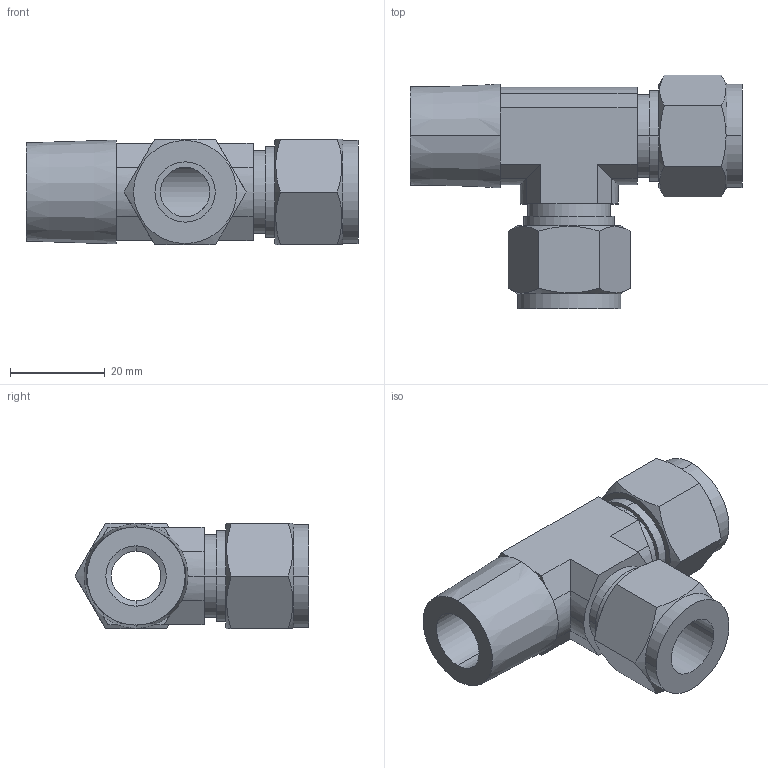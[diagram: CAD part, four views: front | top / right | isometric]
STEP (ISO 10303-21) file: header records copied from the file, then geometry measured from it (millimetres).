
FILE_DESCRIPTION (( 'STEP AP203' ), '1' );
FILE_NAME ('DTK 08-08 SS.STEP', '2009-09-08T10:03:24', ( ' ' ), ( '' ), 'SwSTEP 2.0', 'SolidWorks 2008', '' );
FILE_SCHEMA (( 'CONFIG_CONTROL_DESIGN' ));
Length unit declared in the file: millimetre
Products named in the file (1): DTK 08-08 SS
Bounding box: 69.9 x 49.23 x 22.23 mm (x, y, z)
Volume: 23721.6 mm3; surface area: 11791.1 mm2
Topology: 1 solids, 1 shells, 83 faces, 201 edges, 128 vertices
Faces by surface type: plane 43, cylinder 28, cone 12
Entity records: 2791 total; most frequent: CARTESIAN_POINT 778, ORIENTED_EDGE 402, DIRECTION 399, EDGE_CURVE 201, AXIS2_PLACEMENT_3D 151, VERTEX_POINT 128, LINE 97, VECTOR 97
